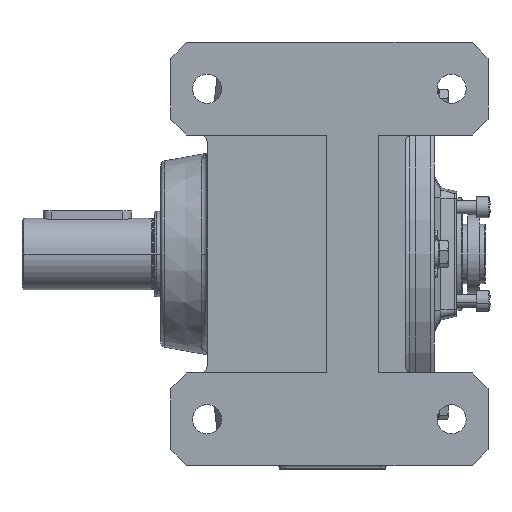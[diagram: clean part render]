
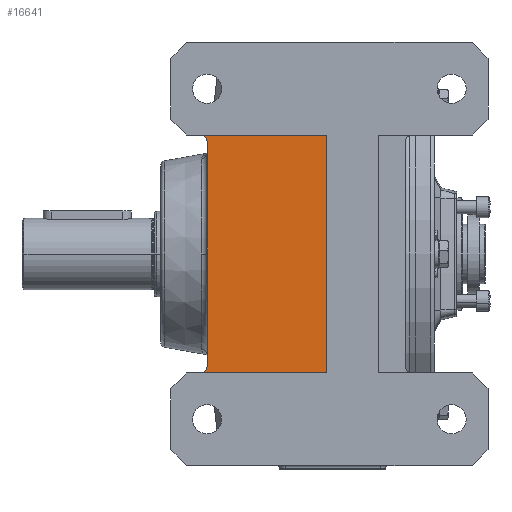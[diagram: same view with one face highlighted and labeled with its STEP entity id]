
A CAD part, front view. The second image highlights one B-rep face of the part: STEP entity #16641.
In plain terms, the highlighted planar face has unit normal (0, -1, 0).
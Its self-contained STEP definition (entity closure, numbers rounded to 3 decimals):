
#4886 = ORIENTED_EDGE ( 'NONE', *, *, #39431, .F. ) ;
#4887 = ORIENTED_EDGE ( 'NONE', *, *, #39432, .T. ) ;
#4888 = ORIENTED_EDGE ( 'NONE', *, *, #39430, .T. ) ;
#4889 = ORIENTED_EDGE ( 'NONE', *, *, #51914, .T. ) ;
#16641 = ADVANCED_FACE ( 'NONE', ( #38898 ), #34138, .F. ) ;
#19901 = ORIENTED_EDGE ( 'NONE', *, *, #51915, .T. ) ;
#19902 = ORIENTED_EDGE ( 'NONE', *, *, #51916, .F. ) ;
#23462 = VECTOR ( 'NONE', #31535, 1000. ) ;
#23463 = AXIS2_PLACEMENT_3D ( 'NONE', #31529, #31539, #31540 ) ;
#23464 = VECTOR ( 'NONE', #31538, 1000. ) ;
#25111 = EDGE_LOOP ( 'NONE', ( #4886, #4888, #4887, #4889, #19901, #19902 ) ) ;
#31529 = CARTESIAN_POINT ( 'NONE',  ( -5., -111., 85. ) ) ;
#31533 = LINE ( 'NONE', #31534, #23462 ) ;
#31534 = CARTESIAN_POINT ( 'NONE',  ( 212.5, -111., 90. ) ) ;
#31535 = DIRECTION ( 'NONE',  ( -1., 0., 0. ) ) ;
#31536 = LINE ( 'NONE', #31537, #23464 ) ;
#31537 = CARTESIAN_POINT ( 'NONE',  ( 90., -111., 0. ) ) ;
#31538 = DIRECTION ( 'NONE',  ( 0., 0., -1. ) ) ;
#31539 = DIRECTION ( 'NONE',  ( 0., 1., 0. ) ) ;
#31540 = DIRECTION ( 'NONE',  ( -1., 0., 0. ) ) ;
#34138 = PLANE ( 'NONE',  #38903 ) ;
#34139 = CARTESIAN_POINT ( 'NONE',  ( 212.5, -111., -90. ) ) ;
#34140 = DIRECTION ( 'NONE',  ( 0., 1., 0. ) ) ;
#34141 = DIRECTION ( 'NONE',  ( -1., 0., 0. ) ) ;
#38898 = FACE_OUTER_BOUND ( 'NONE', #25111, .T. ) ;
#38903 = AXIS2_PLACEMENT_3D ( 'NONE', #34139, #34140, #34141 ) ;
#39430 = EDGE_CURVE ( 'NONE', #62783, #62785, #31533, .T. ) ;
#39431 = EDGE_CURVE ( 'NONE', #62783, #62784, #31536, .T. ) ;
#39432 = EDGE_CURVE ( 'NONE', #62785, #62786, #73096, .T. ) ;
#43832 = AXIS2_PLACEMENT_3D ( 'NONE', #72051, #72055, #72056 ) ;
#43837 = VECTOR ( 'NONE', #72054, 1000. ) ;
#43838 = VECTOR ( 'NONE', #72060, 1000. ) ;
#51914 = EDGE_CURVE ( 'NONE', #62786, #62787, #72052, .T. ) ;
#51915 = EDGE_CURVE ( 'NONE', #62787, #62788, #73453, .T. ) ;
#51916 = EDGE_CURVE ( 'NONE', #62784, #62788, #72058, .T. ) ;
#54301 = CARTESIAN_POINT ( 'NONE',  ( 90., -111., 90. ) ) ;
#54302 = CARTESIAN_POINT ( 'NONE',  ( 90., -111., -90. ) ) ;
#54303 = CARTESIAN_POINT ( 'NONE',  ( -5., -111., 90. ) ) ;
#54304 = CARTESIAN_POINT ( 'NONE',  ( 0., -111., 85. ) ) ;
#54305 = CARTESIAN_POINT ( 'NONE',  ( 0., -111., -85. ) ) ;
#54306 = CARTESIAN_POINT ( 'NONE',  ( -5., -111., -90. ) ) ;
#62783 = VERTEX_POINT ( 'NONE', #54301 ) ;
#62784 = VERTEX_POINT ( 'NONE', #54302 ) ;
#62785 = VERTEX_POINT ( 'NONE', #54303 ) ;
#62786 = VERTEX_POINT ( 'NONE', #54304 ) ;
#62787 = VERTEX_POINT ( 'NONE', #54305 ) ;
#62788 = VERTEX_POINT ( 'NONE', #54306 ) ;
#72051 = CARTESIAN_POINT ( 'NONE',  ( -5., -111., -85. ) ) ;
#72052 = LINE ( 'NONE', #72053, #43837 ) ;
#72053 = CARTESIAN_POINT ( 'NONE',  ( 0., -111., -90. ) ) ;
#72054 = DIRECTION ( 'NONE',  ( 0., 0., -1. ) ) ;
#72055 = DIRECTION ( 'NONE',  ( 0., 1., 0. ) ) ;
#72056 = DIRECTION ( 'NONE',  ( -1., 0., 0. ) ) ;
#72058 = LINE ( 'NONE', #72059, #43838 ) ;
#72059 = CARTESIAN_POINT ( 'NONE',  ( 212.5, -111., -90. ) ) ;
#72060 = DIRECTION ( 'NONE',  ( -1., 0., 0. ) ) ;
#73096 = CIRCLE ( 'NONE', #23463, 5. ) ;
#73453 = CIRCLE ( 'NONE', #43832, 5. ) ;
